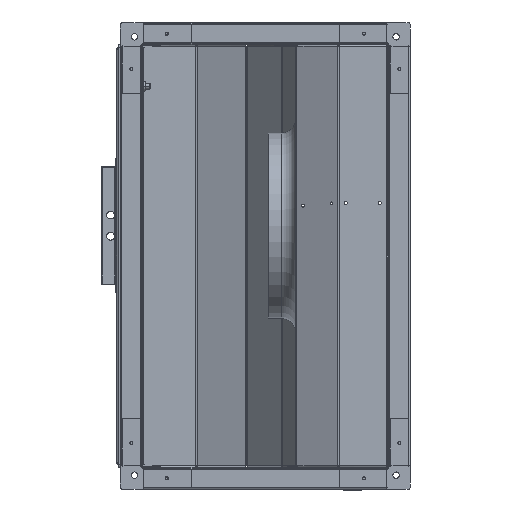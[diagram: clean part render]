
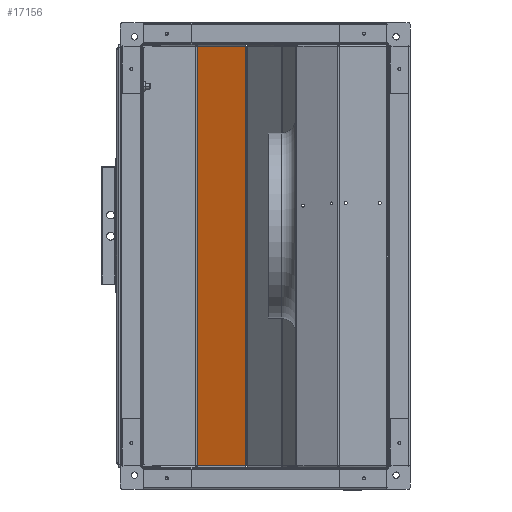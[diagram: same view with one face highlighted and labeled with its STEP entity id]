
A CAD part, left-side view. The second image highlights one B-rep face of the part: STEP entity #17156.
In plain terms, the highlighted planar face has unit normal (0.932, -0.362, 0).
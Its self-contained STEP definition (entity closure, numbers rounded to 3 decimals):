
#402 = EDGE_CURVE ( 'NONE', #84014, #83540, #120412, .T. ) ;
#409 = EDGE_CURVE ( 'NONE', #83540, #84379, #120426, .T. ) ;
#422 = EDGE_CURVE ( 'NONE', #84020, #84379, #120431, .T. ) ;
#5298 = EDGE_CURVE ( 'NONE', #84020, #84014, #98640, .T. ) ;
#17156 = ADVANCED_FACE ( 'NONE', ( #59317 ), #76414, .F. ) ;
#37638 = CARTESIAN_POINT ( 'NONE',  ( 292.977, 270.772, -296.7 ) ) ;
#44964 = AXIS2_PLACEMENT_3D ( 'NONE', #76392, #76420, #76423 ) ;
#59317 = FACE_OUTER_BOUND ( 'NONE', #122367, .T. ) ;
#76392 = CARTESIAN_POINT ( 'NONE',  ( 266.036, 201.383, 299. ) ) ;
#76414 = PLANE ( 'NONE',  #44964 ) ;
#76420 = DIRECTION ( 'NONE',  ( -0.932, 0.362, 0. ) ) ;
#76423 = DIRECTION ( 'NONE',  ( -0.362, -0.932, 0. ) ) ;
#83540 = VERTEX_POINT ( 'NONE', #135363 ) ;
#84014 = VERTEX_POINT ( 'NONE', #136047 ) ;
#84020 = VERTEX_POINT ( 'NONE', #136054 ) ;
#84379 = VERTEX_POINT ( 'NONE', #37638 ) ;
#90967 = CARTESIAN_POINT ( 'NONE',  ( 293.16, 271.243, 296.7 ) ) ;
#90969 = DIRECTION ( 'NONE',  ( -0.362, -0.932, 0. ) ) ;
#98640 = LINE ( 'NONE', #90967, #98643 ) ;
#98643 = VECTOR ( 'NONE', #90969, 1000. ) ;
#114821 = DIRECTION ( 'NONE',  ( 0., 0., -1. ) ) ;
#114850 = CARTESIAN_POINT ( 'NONE',  ( 292.977, 270.772, 299. ) ) ;
#115083 = DIRECTION ( 'NONE',  ( 0.362, 0.932, 0. ) ) ;
#115100 = CARTESIAN_POINT ( 'NONE',  ( 266.335, 202.153, -296.7 ) ) ;
#115179 = DIRECTION ( 'NONE',  ( 0., 0., -1. ) ) ;
#115195 = CARTESIAN_POINT ( 'NONE',  ( 266.505, 202.592, 299. ) ) ;
#119160 = ORIENTED_EDGE ( 'NONE', *, *, #5298, .T. ) ;
#119161 = ORIENTED_EDGE ( 'NONE', *, *, #402, .T. ) ;
#119167 = ORIENTED_EDGE ( 'NONE', *, *, #422, .F. ) ;
#119168 = ORIENTED_EDGE ( 'NONE', *, *, #409, .T. ) ;
#120412 = LINE ( 'NONE', #115195, #120415 ) ;
#120415 = VECTOR ( 'NONE', #115179, 1000. ) ;
#120418 = VECTOR ( 'NONE', #115083, 1000. ) ;
#120426 = LINE ( 'NONE', #115100, #120418 ) ;
#120431 = LINE ( 'NONE', #114850, #120433 ) ;
#120433 = VECTOR ( 'NONE', #114821, 1000. ) ;
#122367 = EDGE_LOOP ( 'NONE', ( #119168, #119167, #119160, #119161 ) ) ;
#135363 = CARTESIAN_POINT ( 'NONE',  ( 266.505, 202.592, -296.7 ) ) ;
#136047 = CARTESIAN_POINT ( 'NONE',  ( 266.505, 202.592, 296.7 ) ) ;
#136054 = CARTESIAN_POINT ( 'NONE',  ( 292.977, 270.772, 296.7 ) ) ;
